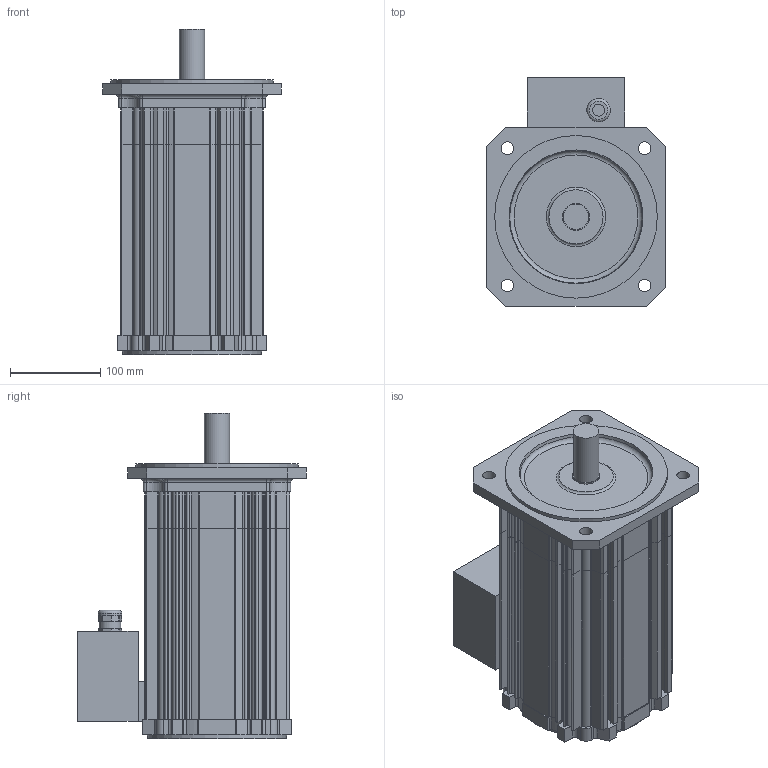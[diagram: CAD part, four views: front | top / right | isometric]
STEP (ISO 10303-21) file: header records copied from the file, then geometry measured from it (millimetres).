
FILE_DESCRIPTION(/* description */ (''),/* implementation_level */ '2;1');
FILE_NAME(/* name */ 'KSA8412',/* time_stamp */ '2009-02-26T16:04:01+01:00',/* author */ (''),/* organization */ (''),/* preprocessor_version */ 'ST-DEVELOPER v8',/* originating_system */ 'UNIGRAPHICS SOLUTIONS - UNIGRAPHICS 18.0',/* authorisation */ '');
FILE_SCHEMA (('AUTOMOTIVE_DESIGN { 1 2 10303 214 0 1 1 1 }'));
Length unit declared in the file: millimetre
Products named in the file (6): 0280391600_0; Lagersch_8BS_0; Lagersch_8AS_0; 089107X_0; SK3958_0; KSA8412_0
Assembly tree (5 placements, depth 3):
  KSA8412_0
    089107X_0
    Lagersch_8AS_0
    Lagersch_8BS_0
    SK3958_0
      0280391600_0
Bounding box: 198 x 253.35 x 360 mm (x, y, z)
Volume: 3186263.1 mm3; surface area: 676339.9 mm2
Topology: 6 solids, 6 shells, 666 faces, 1889 edges, 1249 vertices
Faces by surface type: cylinder 339, plane 302, torus 23, cone 2
Full cylindrical faces by diameter (mm): 13 x1, 14 x4, 20 x2, 24 x1, 26 x1, 28 x1, 30 x1, 35 x1, 143 x1, 149.6 x2, 151 x2, 154 x1, 180 x1
Entity records: 21937 total; most frequent: DIRECTION 3904, CARTESIAN_POINT 3892, ORIENTED_EDGE 3716, EDGE_CURVE 1858, AXIS2_PLACEMENT_3D 1398, VERTEX_POINT 1242, LINE 1108, VECTOR 1108
